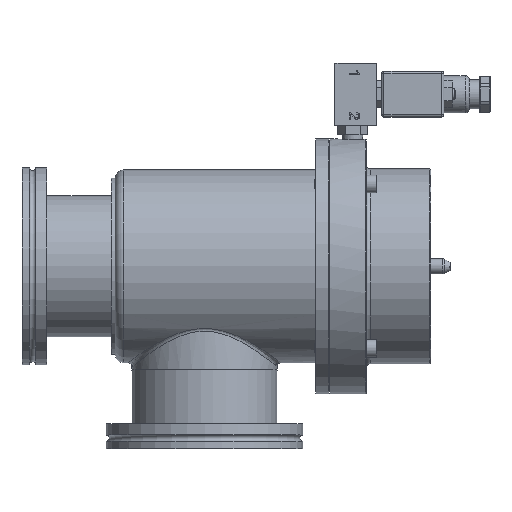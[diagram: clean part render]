
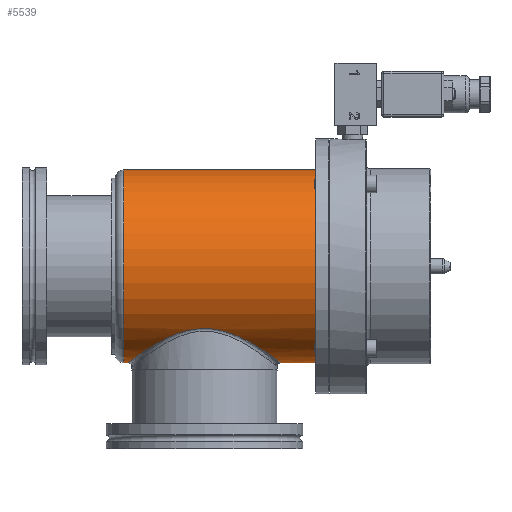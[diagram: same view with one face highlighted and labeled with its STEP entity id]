
A CAD part, top view. The second image highlights one B-rep face of the part: STEP entity #5539.
In plain terms, the highlighted cylindrical face has radius 46.5 mm (diameter 93 mm), a full revolution.
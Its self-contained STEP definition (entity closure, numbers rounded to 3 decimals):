
#2482=B_SPLINE_CURVE_WITH_KNOTS('',3,(#15911,#15912,#15913,#15914,#15915,
#15916,#15917,#15918,#15919,#15920,#15921,#15922,#15923,#15924,#15925,#15926,
#15927,#15928,#15929,#15930,#15931,#15932,#15933,#15934,#15935,#15936,#15937,
#15938,#15939,#15940,#15941,#15942,#15943,#15944,#15945,#15946,#15947,#15948,
#15949,#15950,#15951,#15952,#15953,#15954,#15955,#15956),.UNSPECIFIED.,.T.,
 .F.,(2,2,2,2,2,2,2,2,2,2,2,2,2,2,2,2,2,2,2,2,2,2,2,2,2),(-0.063,0.,0.063,
0.094,0.125,0.156,0.188,0.219,0.25,0.313,0.375,0.438,
0.5,0.531,0.563,0.625,0.656,0.688,0.719,0.75,0.813,0.875,0.938,
1.,1.063),.UNSPECIFIED.);
#4691=CYLINDRICAL_SURFACE('',#10828,46.5);
#5028=FACE_BOUND('',#6620,.T.);
#5029=FACE_BOUND('',#6621,.T.);
#5030=FACE_BOUND('',#6622,.T.);
#5539=ADVANCED_FACE('',(#5028,#5029,#5030),#4691,.T.);
#6620=EDGE_LOOP('',(#8280));
#6621=EDGE_LOOP('',(#8281));
#6622=EDGE_LOOP('',(#8282));
#8280=ORIENTED_EDGE('',*,*,#9844,.T.);
#8281=ORIENTED_EDGE('',*,*,#9845,.T.);
#8282=ORIENTED_EDGE('',*,*,#9846,.T.);
#9003=VERTEX_POINT('',#15910);
#9004=VERTEX_POINT('',#15957);
#9005=VERTEX_POINT('',#15959);
#9844=EDGE_CURVE('',#9003,#9003,#10166,.T.);
#9845=EDGE_CURVE('',#9004,#9004,#2482,.T.);
#9846=EDGE_CURVE('',#9005,#9005,#10167,.T.);
#10166=CIRCLE('',#10826,46.5);
#10167=CIRCLE('',#10827,46.5);
#10826=AXIS2_PLACEMENT_3D('',#15909,#12570,#12571);
#10827=AXIS2_PLACEMENT_3D('',#15958,#12572,#12573);
#10828=AXIS2_PLACEMENT_3D('',#15960,#12574,#12575);
#12570=DIRECTION('',(1.,0.,0.));
#12571=DIRECTION('',(0.,0.,-1.));
#12572=DIRECTION('',(-1.,0.,0.));
#12573=DIRECTION('',(0.,0.,1.));
#12574=DIRECTION('',(-1.,0.,0.));
#12575=DIRECTION('',(0.,0.,1.));
#15909=CARTESIAN_POINT('',(4.,0.,0.));
#15910=CARTESIAN_POINT('',(4.,0.,-46.5));
#15911=CARTESIAN_POINT('',(37.968,-30.064,35.474));
#15912=CARTESIAN_POINT('',(48.032,-30.064,35.474));
#15913=CARTESIAN_POINT('',(52.901,-31.3,34.474));
#15914=CARTESIAN_POINT('',(59.385,-33.868,31.885));
#15915=CARTESIAN_POINT('',(61.453,-34.849,30.826));
#15916=CARTESIAN_POINT('',(65.29,-36.853,28.4));
#15917=CARTESIAN_POINT('',(67.071,-37.881,27.031));
#15918=CARTESIAN_POINT('',(70.388,-39.898,23.955));
#15919=CARTESIAN_POINT('',(71.934,-40.896,22.227));
#15920=CARTESIAN_POINT('',(74.659,-42.712,18.5));
#15921=CARTESIAN_POINT('',(75.851,-43.536,16.494));
#15922=CARTESIAN_POINT('',(77.853,-44.945,12.143));
#15923=CARTESIAN_POINT('',(78.643,-45.514,9.827));
#15924=CARTESIAN_POINT('',(79.712,-46.288,5.049));
#15925=CARTESIAN_POINT('',(79.996,-46.497,2.53));
#15926=CARTESIAN_POINT('',(80.008,-46.506,-4.901));
#15927=CARTESIAN_POINT('',(78.892,-45.677,-9.844));
#15928=CARTESIAN_POINT('',(74.912,-42.875,-18.574));
#15929=CARTESIAN_POINT('',(72.101,-40.942,-22.354));
#15930=CARTESIAN_POINT('',(65.451,-36.893,-28.545));
#15931=CARTESIAN_POINT('',(61.575,-34.738,-31.007));
#15932=CARTESIAN_POINT('',(52.929,-31.308,-34.467));
#15933=CARTESIAN_POINT('',(48.026,-30.066,-35.472));
#15934=CARTESIAN_POINT('',(40.507,-30.063,-35.475));
#15935=CARTESIAN_POINT('',(38.066,-30.352,-35.235));
#15936=CARTESIAN_POINT('',(33.293,-31.392,-34.311));
#15937=CARTESIAN_POINT('',(30.979,-32.142,-33.625));
#15938=CARTESIAN_POINT('',(24.474,-34.713,-31.035));
#15939=CARTESIAN_POINT('',(20.607,-36.861,-28.585));
#15940=CARTESIAN_POINT('',(15.628,-39.888,-23.971));
#15941=CARTESIAN_POINT('',(14.08,-40.887,-22.244));
#15942=CARTESIAN_POINT('',(11.351,-42.705,-18.516));
#15943=CARTESIAN_POINT('',(10.157,-43.531,-16.509));
#15944=CARTESIAN_POINT('',(8.153,-44.941,-12.158));
#15945=CARTESIAN_POINT('',(7.361,-45.511,-9.84));
#15946=CARTESIAN_POINT('',(6.29,-46.287,-5.06));
#15947=CARTESIAN_POINT('',(6.004,-46.497,-2.539));
#15948=CARTESIAN_POINT('',(5.991,-46.506,4.897));
#15949=CARTESIAN_POINT('',(7.107,-45.677,9.843));
#15950=CARTESIAN_POINT('',(11.089,-42.874,18.577));
#15951=CARTESIAN_POINT('',(13.903,-40.939,22.359));
#15952=CARTESIAN_POINT('',(20.559,-36.887,28.553));
#15953=CARTESIAN_POINT('',(24.438,-34.732,31.014));
#15954=CARTESIAN_POINT('',(33.092,-31.302,34.473));
#15955=CARTESIAN_POINT('',(37.968,-30.064,35.474));
#15956=CARTESIAN_POINT('',(48.032,-30.064,35.474));
#15957=CARTESIAN_POINT('',(43.,-30.064,35.474));
#15958=CARTESIAN_POINT('',(98.6,0.,0.));
#15959=CARTESIAN_POINT('',(98.6,0.,46.5));
#15960=CARTESIAN_POINT('',(0.,0.,0.));
